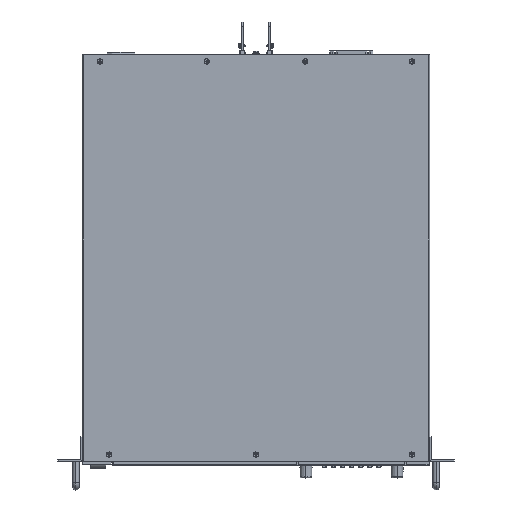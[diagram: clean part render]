
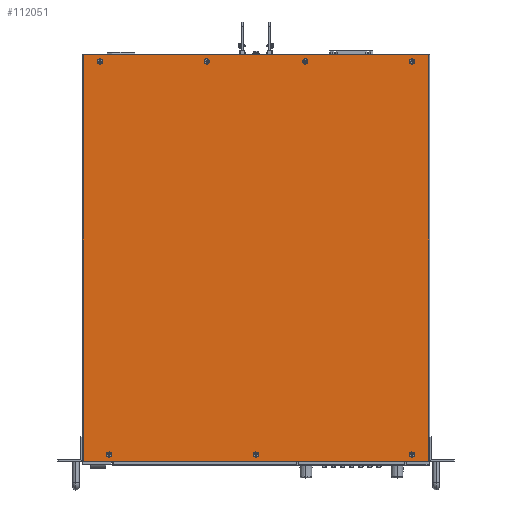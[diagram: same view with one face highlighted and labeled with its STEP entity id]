
A CAD part, top view. The second image highlights one B-rep face of the part: STEP entity #112051.
In plain terms, the highlighted planar face has unit normal (0, 0, 1).
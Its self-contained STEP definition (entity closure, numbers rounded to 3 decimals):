
#8327=DIRECTION('',(0.,-1.,0.));
#8328=VECTOR('',#8327,495.);
#8329=CARTESIAN_POINT('',(-210.4,493.8,43.));
#8330=LINE('',#8329,#8328);
#8585=CARTESIAN_POINT('',(190.,485.8,43.));
#8586=DIRECTION('',(0.,0.,1.));
#8587=DIRECTION('',(-1.,0.,0.));
#8588=AXIS2_PLACEMENT_3D('',#8585,#8586,#8587);
#8590=CARTESIAN_POINT('',(190.,485.8,43.));
#8591=DIRECTION('',(0.,0.,1.));
#8592=DIRECTION('',(1.,0.,0.));
#8593=AXIS2_PLACEMENT_3D('',#8590,#8591,#8592);
#8595=CARTESIAN_POINT('',(-179.,6.8,43.));
#8596=DIRECTION('',(0.,0.,1.));
#8597=DIRECTION('',(-1.,0.,0.));
#8598=AXIS2_PLACEMENT_3D('',#8595,#8596,#8597);
#8600=CARTESIAN_POINT('',(-179.,6.8,43.));
#8601=DIRECTION('',(0.,0.,1.));
#8602=DIRECTION('',(1.,0.,0.));
#8603=AXIS2_PLACEMENT_3D('',#8600,#8601,#8602);
#8605=CARTESIAN_POINT('',(190.,6.8,43.));
#8606=DIRECTION('',(0.,0.,1.));
#8607=DIRECTION('',(-1.,0.,0.));
#8608=AXIS2_PLACEMENT_3D('',#8605,#8606,#8607);
#8610=CARTESIAN_POINT('',(190.,6.8,43.));
#8611=DIRECTION('',(0.,0.,1.));
#8612=DIRECTION('',(1.,0.,0.));
#8613=AXIS2_PLACEMENT_3D('',#8610,#8611,#8612);
#8615=CARTESIAN_POINT('',(0.,6.8,43.));
#8616=DIRECTION('',(0.,0.,1.));
#8617=DIRECTION('',(-1.,0.,0.));
#8618=AXIS2_PLACEMENT_3D('',#8615,#8616,#8617);
#8620=CARTESIAN_POINT('',(0.,6.8,43.));
#8621=DIRECTION('',(0.,0.,1.));
#8622=DIRECTION('',(1.,0.,0.));
#8623=AXIS2_PLACEMENT_3D('',#8620,#8621,#8622);
#8625=CARTESIAN_POINT('',(-60.,485.8,43.));
#8626=DIRECTION('',(0.,0.,1.));
#8627=DIRECTION('',(-1.,0.,0.));
#8628=AXIS2_PLACEMENT_3D('',#8625,#8626,#8627);
#8630=CARTESIAN_POINT('',(-60.,485.8,43.));
#8631=DIRECTION('',(0.,0.,1.));
#8632=DIRECTION('',(1.,0.,0.));
#8633=AXIS2_PLACEMENT_3D('',#8630,#8631,#8632);
#8635=CARTESIAN_POINT('',(60.,485.8,43.));
#8636=DIRECTION('',(0.,0.,1.));
#8637=DIRECTION('',(-1.,0.,0.));
#8638=AXIS2_PLACEMENT_3D('',#8635,#8636,#8637);
#8640=CARTESIAN_POINT('',(60.,485.8,43.));
#8641=DIRECTION('',(0.,0.,1.));
#8642=DIRECTION('',(1.,0.,0.));
#8643=AXIS2_PLACEMENT_3D('',#8640,#8641,#8642);
#8645=CARTESIAN_POINT('',(-190.,485.8,43.));
#8646=DIRECTION('',(0.,0.,1.));
#8647=DIRECTION('',(-1.,0.,0.));
#8648=AXIS2_PLACEMENT_3D('',#8645,#8646,#8647);
#8650=CARTESIAN_POINT('',(-190.,485.8,43.));
#8651=DIRECTION('',(0.,0.,1.));
#8652=DIRECTION('',(1.,0.,0.));
#8653=AXIS2_PLACEMENT_3D('',#8650,#8651,#8652);
#8655=DIRECTION('',(1.,0.,0.));
#8656=VECTOR('',#8655,420.8);
#8657=CARTESIAN_POINT('',(-210.4,-1.2,43.));
#8658=LINE('',#8657,#8656);
#9970=DIRECTION('',(-1.,0.,0.));
#9971=VECTOR('',#9970,420.8);
#9972=CARTESIAN_POINT('',(210.4,493.8,43.));
#9973=LINE('',#9972,#9971);
#10467=DIRECTION('',(0.,1.,0.));
#10468=VECTOR('',#10467,495.);
#10469=CARTESIAN_POINT('',(210.4,-1.2,43.));
#10470=LINE('',#10469,#10468);
#82306=CARTESIAN_POINT('',(186.75,485.8,43.));
#82307=CARTESIAN_POINT('',(193.25,485.8,43.));
#82308=VERTEX_POINT('',#82306);
#82309=VERTEX_POINT('',#82307);
#82310=CARTESIAN_POINT('',(-182.25,6.8,43.));
#82311=CARTESIAN_POINT('',(-175.75,6.8,43.));
#82312=VERTEX_POINT('',#82310);
#82313=VERTEX_POINT('',#82311);
#82314=CARTESIAN_POINT('',(186.75,6.8,43.));
#82315=CARTESIAN_POINT('',(193.25,6.8,43.));
#82316=VERTEX_POINT('',#82314);
#82317=VERTEX_POINT('',#82315);
#82318=CARTESIAN_POINT('',(-3.25,6.8,43.));
#82319=CARTESIAN_POINT('',(3.25,6.8,43.));
#82320=VERTEX_POINT('',#82318);
#82321=VERTEX_POINT('',#82319);
#82322=CARTESIAN_POINT('',(-63.25,485.8,43.));
#82323=CARTESIAN_POINT('',(-56.75,485.8,43.));
#82324=VERTEX_POINT('',#82322);
#82325=VERTEX_POINT('',#82323);
#82326=CARTESIAN_POINT('',(56.75,485.8,43.));
#82327=CARTESIAN_POINT('',(63.25,485.8,43.));
#82328=VERTEX_POINT('',#82326);
#82329=VERTEX_POINT('',#82327);
#82330=CARTESIAN_POINT('',(-193.25,485.8,43.));
#82331=CARTESIAN_POINT('',(-186.75,485.8,43.));
#82332=VERTEX_POINT('',#82330);
#82333=VERTEX_POINT('',#82331);
#82334=CARTESIAN_POINT('',(210.4,493.8,43.));
#82335=CARTESIAN_POINT('',(-210.4,493.8,43.));
#82336=VERTEX_POINT('',#82334);
#82337=VERTEX_POINT('',#82335);
#100372=CARTESIAN_POINT('',(-210.4,-1.2,43.));
#100373=CARTESIAN_POINT('',(210.4,-1.2,43.));
#100374=VERTEX_POINT('',#100372);
#100375=VERTEX_POINT('',#100373);
#111996=CARTESIAN_POINT('',(0.,246.3,43.));
#111997=DIRECTION('',(0.,0.,1.));
#111998=DIRECTION('',(-1.,0.,0.));
#111999=AXIS2_PLACEMENT_3D('',#111996,#111997,#111998);
#112000=PLANE('',#111999);
#112001=ORIENTED_EDGE('',*,*,#111674,.F.);
#112003=ORIENTED_EDGE('',*,*,#112002,.F.);
#112005=ORIENTED_EDGE('',*,*,#112004,.F.);
#112006=ORIENTED_EDGE('',*,*,#111959,.F.);
#112007=EDGE_LOOP('',(#112001,#112003,#112005,#112006));
#112008=FACE_OUTER_BOUND('',#112007,.F.);
#112010=ORIENTED_EDGE('',*,*,#112009,.T.);
#112012=ORIENTED_EDGE('',*,*,#112011,.T.);
#112013=EDGE_LOOP('',(#112010,#112012));
#112014=FACE_BOUND('',#112013,.F.);
#112016=ORIENTED_EDGE('',*,*,#112015,.T.);
#112018=ORIENTED_EDGE('',*,*,#112017,.T.);
#112019=EDGE_LOOP('',(#112016,#112018));
#112020=FACE_BOUND('',#112019,.F.);
#112022=ORIENTED_EDGE('',*,*,#112021,.T.);
#112024=ORIENTED_EDGE('',*,*,#112023,.T.);
#112025=EDGE_LOOP('',(#112022,#112024));
#112026=FACE_BOUND('',#112025,.F.);
#112028=ORIENTED_EDGE('',*,*,#112027,.T.);
#112030=ORIENTED_EDGE('',*,*,#112029,.T.);
#112031=EDGE_LOOP('',(#112028,#112030));
#112032=FACE_BOUND('',#112031,.F.);
#112034=ORIENTED_EDGE('',*,*,#112033,.T.);
#112036=ORIENTED_EDGE('',*,*,#112035,.T.);
#112037=EDGE_LOOP('',(#112034,#112036));
#112038=FACE_BOUND('',#112037,.F.);
#112040=ORIENTED_EDGE('',*,*,#112039,.T.);
#112042=ORIENTED_EDGE('',*,*,#112041,.T.);
#112043=EDGE_LOOP('',(#112040,#112042));
#112044=FACE_BOUND('',#112043,.F.);
#112046=ORIENTED_EDGE('',*,*,#112045,.T.);
#112048=ORIENTED_EDGE('',*,*,#112047,.T.);
#112049=EDGE_LOOP('',(#112046,#112048));
#112050=FACE_BOUND('',#112049,.F.);
#112051=ADVANCED_FACE('',(#112008,#112014,#112020,#112026,#112032,#112038,
#112044,#112050),#112000,.T.);
#8589=CIRCLE('',#8588,3.25);
#8594=CIRCLE('',#8593,3.25);
#8599=CIRCLE('',#8598,3.25);
#8604=CIRCLE('',#8603,3.25);
#8609=CIRCLE('',#8608,3.25);
#8614=CIRCLE('',#8613,3.25);
#8619=CIRCLE('',#8618,3.25);
#8624=CIRCLE('',#8623,3.25);
#8629=CIRCLE('',#8628,3.25);
#8634=CIRCLE('',#8633,3.25);
#8639=CIRCLE('',#8638,3.25);
#8644=CIRCLE('',#8643,3.25);
#8649=CIRCLE('',#8648,3.25);
#8654=CIRCLE('',#8653,3.25);
#111674=EDGE_CURVE('',#82337,#100374,#8330,.T.);
#111959=EDGE_CURVE('',#100374,#100375,#8658,.T.);
#112002=EDGE_CURVE('',#82336,#82337,#9973,.T.);
#112004=EDGE_CURVE('',#100375,#82336,#10470,.T.);
#112009=EDGE_CURVE('',#82312,#82313,#8599,.T.);
#112011=EDGE_CURVE('',#82313,#82312,#8604,.T.);
#112015=EDGE_CURVE('',#82316,#82317,#8609,.T.);
#112017=EDGE_CURVE('',#82317,#82316,#8614,.T.);
#112021=EDGE_CURVE('',#82320,#82321,#8619,.T.);
#112023=EDGE_CURVE('',#82321,#82320,#8624,.T.);
#112027=EDGE_CURVE('',#82324,#82325,#8629,.T.);
#112029=EDGE_CURVE('',#82325,#82324,#8634,.T.);
#112033=EDGE_CURVE('',#82328,#82329,#8639,.T.);
#112035=EDGE_CURVE('',#82329,#82328,#8644,.T.);
#112039=EDGE_CURVE('',#82332,#82333,#8649,.T.);
#112041=EDGE_CURVE('',#82333,#82332,#8654,.T.);
#112045=EDGE_CURVE('',#82308,#82309,#8589,.T.);
#112047=EDGE_CURVE('',#82309,#82308,#8594,.T.);
